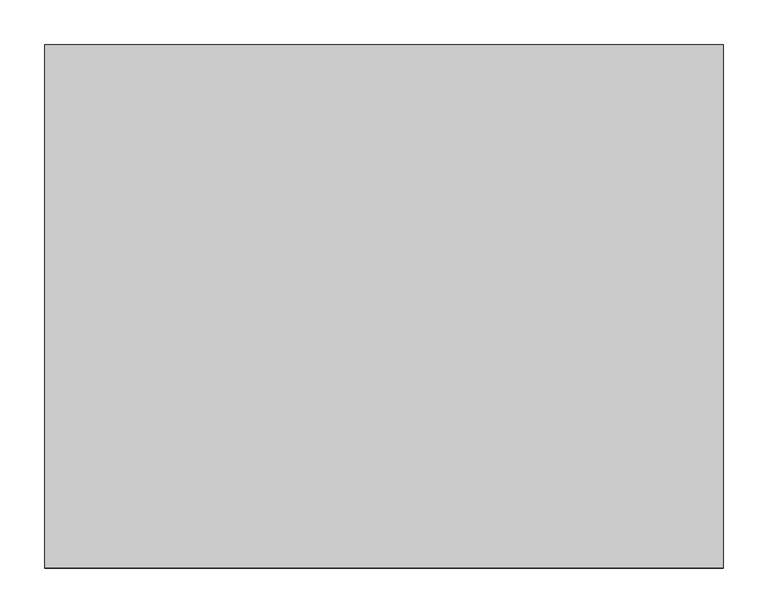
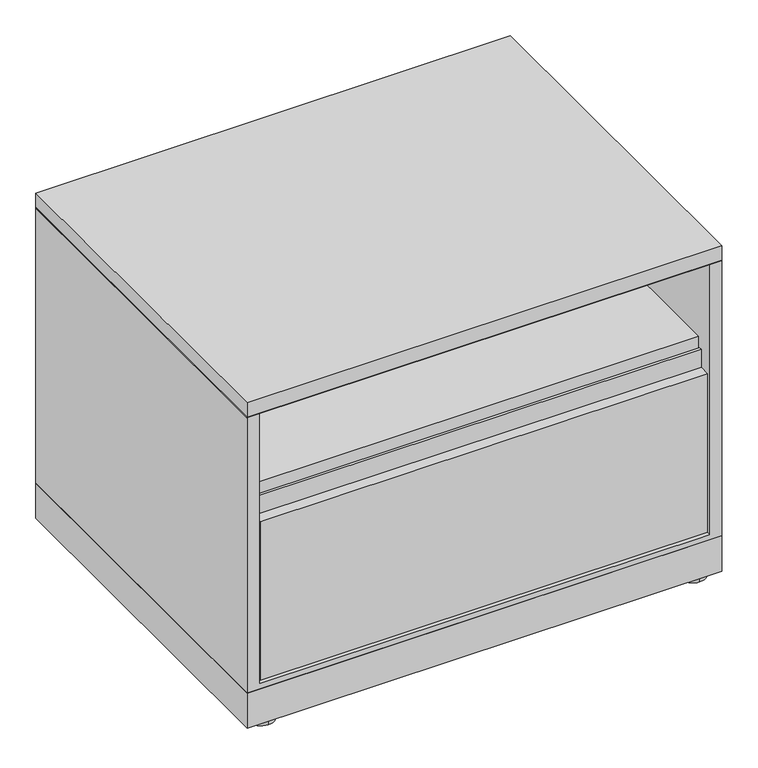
"""IFC4 building model written with IfcOpenShell, lengths in millimetres: furniture geometry, Steelcase - Universal Storage - Lateral File - 1.5 High - Flush Steel : Open/Drawer - 23 1/8D x 30W."""

from ifc_helpers import new_model, si_unit, point, frame, frame_2d, origin, origin_with_axes, place, context, project, spatial, polyline, circle_curve, trimmed, segment, composite_curve, outline, extrude, faceted_brep, source, transform, mapped, element, save


def furniture_b47e36a8(model_context):
    return source(origin(), model_context, "Body", "SolidModel", [
        extrude(outline(polyline([(762.0, 587.502), (762.0, 0.0), (0.0, 0.0), (0.0, 587.502), (762.0, 587.502)])), frame((0.0, 0.0, 6.3500002), z_axis=(0.0, 0.0, 1.0), x_axis=(1.0, 0.0, 0.0)), (0.0, 0.0, 1.0), 59.6899998),
        extrude(outline(composite_curve([segment(trimmed(circle_curve(frame_2d((727.3290058, 565.1653666)), 20.32), [point((727.3290058, 544.8453666))], [point((727.3290058, 585.4853666))], False, "CARTESIAN"), True, "CONTINUOUS"), segment(trimmed(circle_curve(frame_2d((727.3290058, 565.1653666)), 20.32), [point((727.3290058, 585.4853666))], [point((727.3290058, 544.8453666))], False, "CARTESIAN"), True, "CONTINUOUS")], self_intersect=False)), origin_with_axes(), (0.0, 0.0, 1.0), 6.3500002),
        extrude(outline(composite_curve([segment(trimmed(circle_curve(frame_2d((727.3290058, 20.7491455)), 20.32), [point((727.3290058, 0.4291455))], [point((727.3290058, 41.0691455))], False, "CARTESIAN"), True, "CONTINUOUS"), segment(trimmed(circle_curve(frame_2d((727.3290058, 20.7491455)), 20.32), [point((727.3290058, 41.0691455))], [point((727.3290058, 0.4291455))], False, "CARTESIAN"), True, "CONTINUOUS")], self_intersect=False)), origin_with_axes(), (0.0, 0.0, 1.0), 6.3500002),
        extrude(outline(composite_curve([segment(trimmed(circle_curve(frame_2d((34.29, 565.1653666)), 20.32), [point((34.29, 585.4853666))], [point((34.29, 544.8453666))], False, "CARTESIAN"), True, "CONTINUOUS"), segment(trimmed(circle_curve(frame_2d((34.29, 565.1653666)), 20.32), [point((34.29, 544.8453666))], [point((34.29, 585.4853666))], False, "CARTESIAN"), True, "CONTINUOUS")], self_intersect=False)), origin_with_axes(), (0.0, 0.0, 1.0), 6.3500002),
        extrude(outline(composite_curve([segment(trimmed(circle_curve(frame_2d((34.29, 20.7491455)), 20.32), [point((34.29, 41.0691455))], [point((34.29, 0.4291455))], False, "CARTESIAN"), True, "CONTINUOUS"), segment(trimmed(circle_curve(frame_2d((34.29, 20.7491455)), 20.32), [point((34.29, 0.4291455))], [point((34.29, 41.0691455))], False, "CARTESIAN"), True, "CONTINUOUS")], self_intersect=False)), origin_with_axes(), (0.0, 0.0, 1.0), 6.3500002),
        extrude(outline(polyline([(568.0964128, 396.7988176), (568.0964128, 410.7687861), (571.271412, 410.7687861), (571.271412, 371.5257963), (26.822418, 371.5257963), (26.822418, 396.7988176), (568.0964128, 396.7988176)])), frame((22.0472, 0.0, 0.0), z_axis=(1.0, 0.0, 0.0), x_axis=(0.0, 1.0, 0.0)), (0.0, 0.0, 1.0), 717.9056),
        extrude(outline(polyline([(1.45e-05, 534.0350121), (587.502, 534.0350121), (586.7399879, 533.273), (0.7620266, 533.273), (1.45e-05, 534.0350121)])), frame((0.0, 0.0, 0.0), z_axis=(1.0, 0.0, 0.0), x_axis=(0.0, 1.0, 0.0)), (0.0, 0.0, 1.0), 762.0),
        extrude(outline(polyline([(762.0, 587.502), (762.0, 0.0), (0.0, 0.0), (0.0, 587.502), (762.0, 587.502)])), frame((0.0, 0.0, 534.0350121), z_axis=(0.0, 0.0, 1.0), x_axis=(1.0, 0.0, 0.0)), (0.0, 0.0, 1.0), 24.6379729),
        faceted_brep([(762.0, 0.0, 66.04), (762.0, 587.502, 66.04), (762.0, 587.502, 533.273), (762.0, 0.0, 533.273), (0.0, 0.0, 533.273), (0.0, 587.502, 533.273), (0.0, 587.502, 66.04), (0.0, 0.0, 66.04), (742.95, 0.0, 533.273), (742.95, 0.0, 75.1586), (19.05, 0.0, 75.1586), (19.05, 0.0, 533.273), (19.05, 584.3269999, 533.273), (742.95, 584.3269999, 533.273), (19.05, 584.3269999, 75.1586), (742.95, 584.3269999, 75.1586)], [[[0, 1, 2, 3]], [[4, 5, 6, 7]], [[0, 3, 8, 9, 10, 11, 4, 7]], [[2, 1, 6, 5]], [[3, 2, 5, 4, 11, 12, 13, 8]], [[12, 14, 15, 13]], [[14, 12, 11, 10]], [[13, 15, 9, 8]], [[1, 0, 7, 6]], [[10, 9, 15, 14]]]),
        extrude(outline(polyline([(23.6541043, 79.2988025), (1.5178885, 79.2988025), (1.5178885, 348.1577823), (19.3741023, 348.1577823), (19.3741023, 378.7648167), (23.6541043, 378.7648167), (23.6541043, 79.2988025)])), frame((22.0472, 0.0, 0.0), z_axis=(1.0, 0.0, 0.0), x_axis=(0.0, 1.0, 0.0)), (0.0, 0.0, 1.0), 717.9056),
    ])


if __name__ == "__main__":
    model = new_model("IFC4")
    model_context = context("Model", 3, world=origin())
    ifc_project = project(units=[si_unit("LENGTHUNIT", "METRE", prefix="MILLI")], contexts=[model_context])
    site = spatial("IfcSite", under=ifc_project)
    building = spatial("IfcBuilding", under=site)
    placement = place(None, origin())
    furniture_shape = furniture_b47e36a8(model_context)
    element("IfcFurniture", 1, ObjectType="Steelcase - Universal Storage - Lateral File - 1.5 High - Flush Steel : Open/Drawer - 23 1/8D x 30W", at=placement, inside=building, context=model_context, shape_type="MappedRepresentation", body=[
        mapped(furniture_shape, transform((0.0, 0.0, 0.0), x_axis=(1.0, 0.0, 0.0), y_axis=(0.0, 1.0, 0.0), z_axis=(0.0, 0.0, 1.0))),
    ])
    save(model, "model.ifc")
